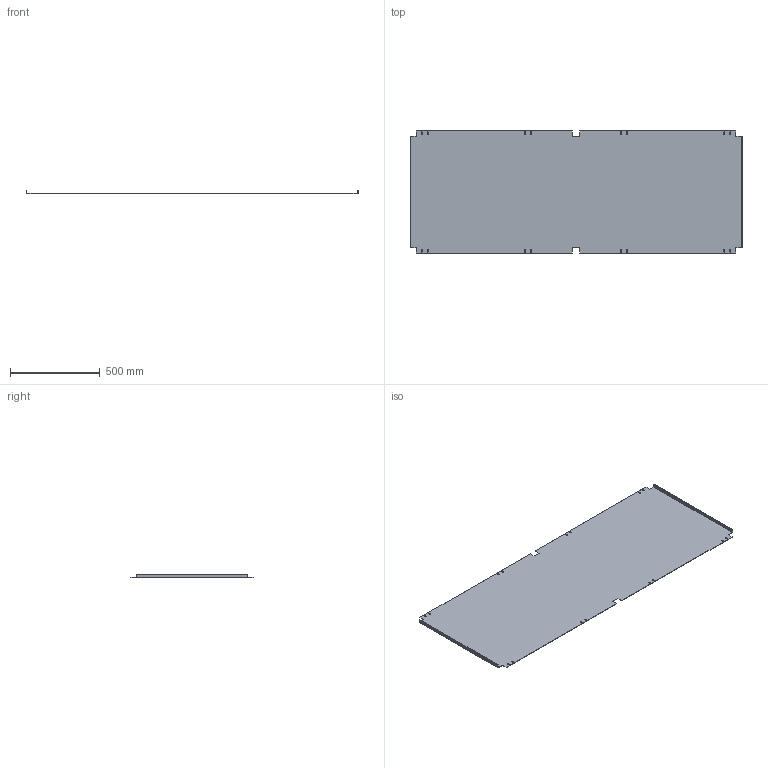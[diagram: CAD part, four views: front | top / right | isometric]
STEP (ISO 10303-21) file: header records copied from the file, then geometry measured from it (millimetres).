
FILE_DESCRIPTION(('Open CASCADE Model'),'2;1');
FILE_NAME('Open CASCADE Shape Model','2025-02-13T17:36:48',('Author'),( 'Open CASCADE'),'Open CASCADE STEP processor 7.8','Open CASCADE 7.8' ,'Unknown');
FILE_SCHEMA(('AUTOMOTIVE_DESIGN { 1 0 10303 214 1 1 1 1 }'));
Length unit declared in the file: millimetre
Products named in the file (1): Solid1
Bounding box: 1850 x 680 x 20 mm (x, y, z)
Volume: 3176789.1 mm3; surface area: 2555988 mm2
Topology: 1 solids, 1 shells, 102 faces, 284 edges, 184 vertices
Faces by surface type: plane 66, cylinder 36
Entity records: 3326 total; most frequent: CARTESIAN_POINT 571, ORIENTED_EDGE 568, DIRECTION 562, EDGE_CURVE 284, LINE 212, VECTOR 212, VERTEX_POINT 184, AXIS2_PLACEMENT_3D 175
